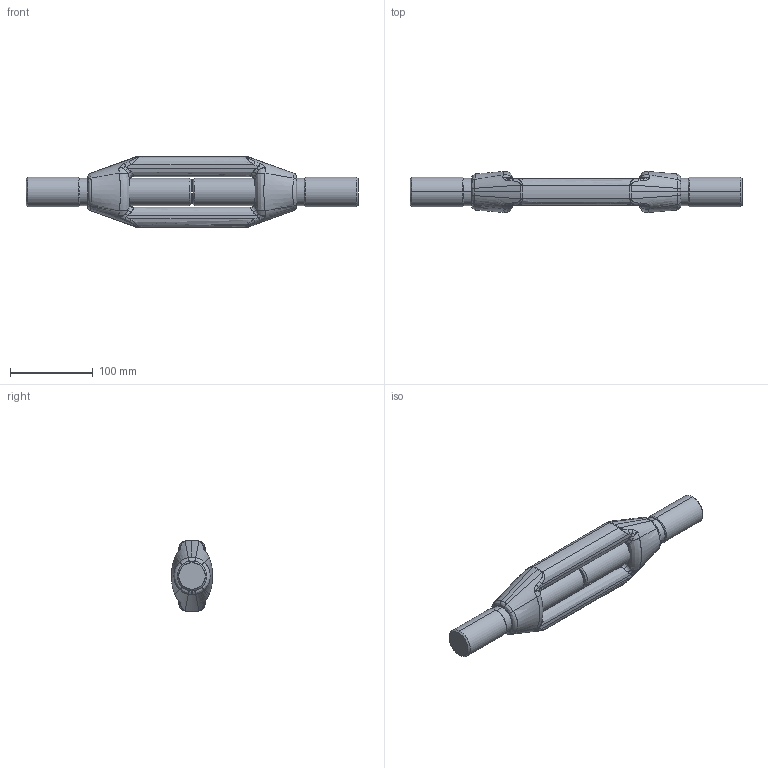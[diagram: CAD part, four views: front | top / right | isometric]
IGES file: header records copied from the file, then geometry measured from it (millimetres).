
Start section: SolidWorks IGES FILE using analytic representation for surfaces
Global section: file name: Z:\CAD Drawings\New drawings\TBSS33\IGES\TBSS33.IGS; native system: SolidWorks 2004 by SolidWorks Corporation; preprocessor: Version 5.3; author: Administrator; date: 110811.141633; units: millimetre
Bounding box: 402 x 49.88 x 86.42 mm (x, y, z)
Surface area: 104970.6 mm2 (no closed solid volume)
Topology: 0 solids, 0 shells, 179 faces, 2484 edges, 2480 vertices
Faces by surface type: bspline 130, revolution 49
